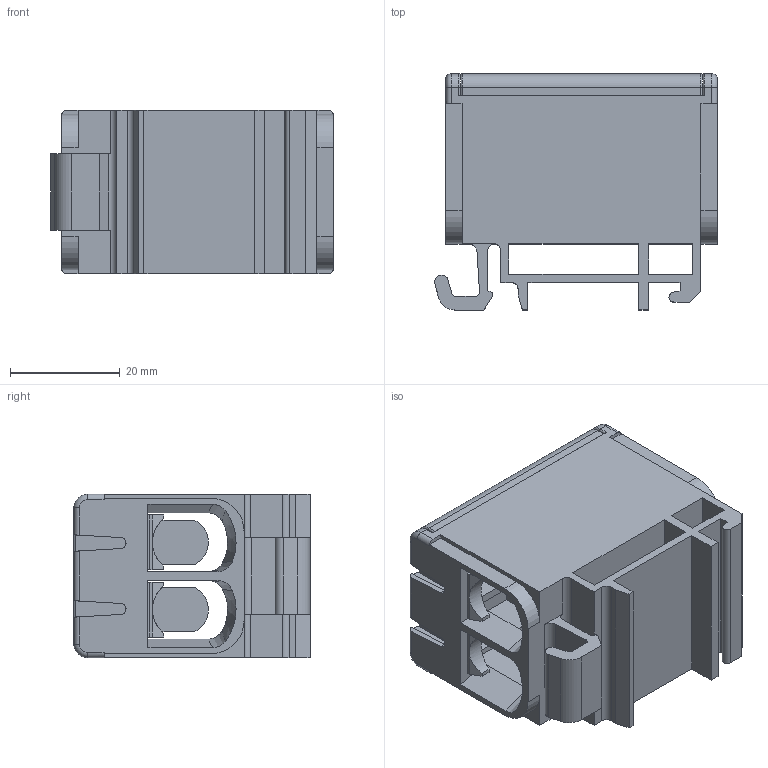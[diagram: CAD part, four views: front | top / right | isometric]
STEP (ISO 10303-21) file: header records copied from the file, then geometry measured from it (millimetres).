
FILE_DESCRIPTION((''),'2;1');
FILE_NAME('KE66_ASM','2016-05-30T',('Administrator'),(''),'PRO/ENGINEER BY PARAMETRIC TECHNOLOGY CORPORATION, 2009360','PRO/ENGINEER BY PARAMETRIC TECHNOLOGY CORPORATION, 2009360','');
FILE_SCHEMA(('CONFIG_CONTROL_DESIGN'));
Length unit declared in the file: millimetre
Products named in the file (3): KE66DI; KE66-GAI; KE66_ASM
Assembly tree (2 placements, depth 2):
  KE66_ASM
    KE66DI
    KE66-GAI
Bounding box: 51.5 x 43.04 x 29.8 mm (x, y, z)
Volume: 16376 mm3; surface area: 22315.3 mm2
Topology: 2 solids, 2 shells, 300 faces, 852 edges, 552 vertices
Faces by surface type: plane 213, cylinder 63, torus 12, bspline 8, cone 4
Entity records: 10159 total; most frequent: CARTESIAN_POINT 2264, ORIENTED_EDGE 1704, DIRECTION 1534, EDGE_CURVE 852, VECTOR 660, LINE 660, VERTEX_POINT 552, AXIS2_PLACEMENT_3D 437
